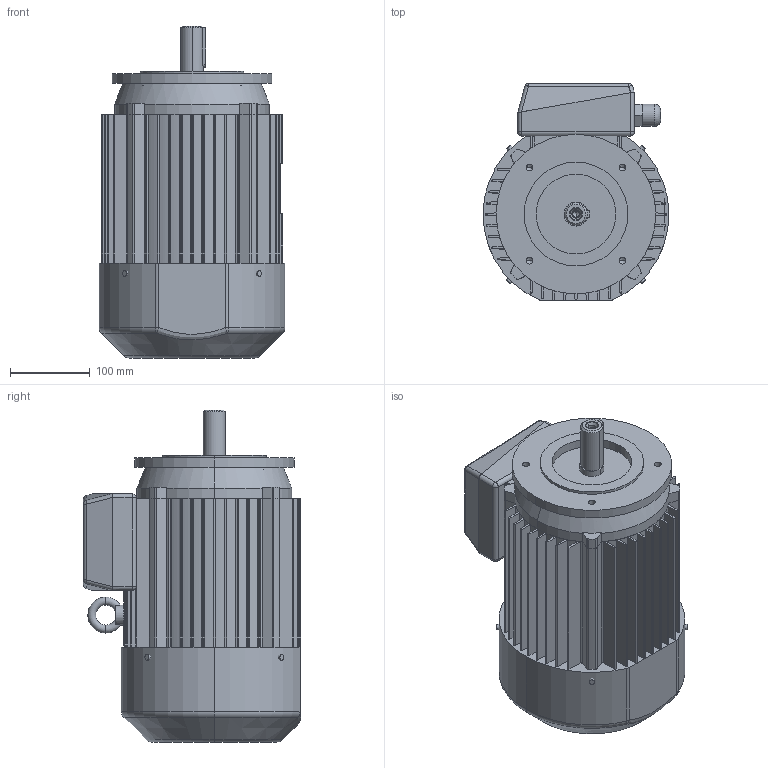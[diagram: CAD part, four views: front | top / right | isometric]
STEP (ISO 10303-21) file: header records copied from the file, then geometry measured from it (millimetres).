
FILE_DESCRIPTION (( 'STEP AP203' ), '1' );
FILE_NAME ('2SIEK112M4-B14-C1.STEP', '2013-01-07T13:17:13', ( 'INDUKTA' ), ( 'CANTONI MOTOR' ), 'SwSTEP 2.0', 'SolidWorks 2003064', '' );
FILE_SCHEMA (( 'CONFIG_CONTROL_DESIGN' ));
Length unit declared in the file: millimetre
Products named in the file (1): 2SIEK112M4-B14-C1
Bounding box: 233 x 272 x 416 mm (x, y, z)
Volume: 13264832.4 mm3; surface area: 746006.7 mm2
Topology: 12 solids, 12 shells, 434 faces, 1170 edges, 739 vertices
Faces by surface type: cylinder 203, plane 185, cone 22, torus 13, sphere 10, bspline 1
Entity records: 14499 total; most frequent: CARTESIAN_POINT 3403, DIRECTION 2392, ORIENTED_EDGE 2300, EDGE_CURVE 1150, AXIS2_PLACEMENT_3D 863, VERTEX_POINT 739, VECTOR 666, LINE 666
